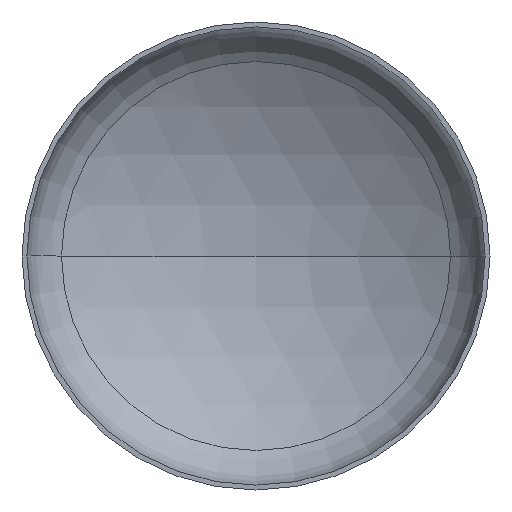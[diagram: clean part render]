
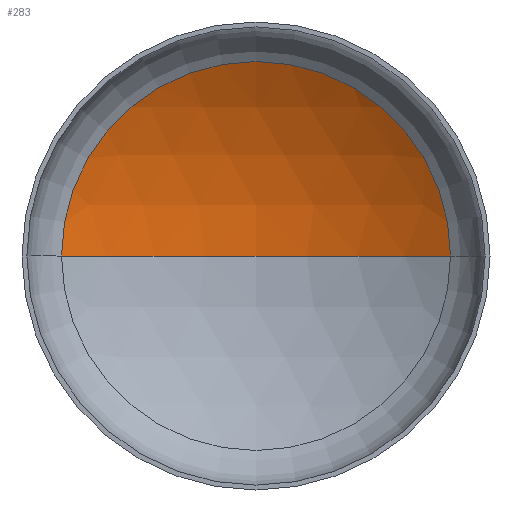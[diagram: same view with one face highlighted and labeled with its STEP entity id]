
A CAD part, front view. The second image highlights one B-rep face of the part: STEP entity #283.
In plain terms, the highlighted spherical face has radius 4000 mm.
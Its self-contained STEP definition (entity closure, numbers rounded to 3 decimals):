
#16 = CARTESIAN_POINT ( 'NONE',  ( 0., -2639.93, 0. ) ) ;
#18 = CARTESIAN_POINT ( 'NONE',  ( 2078.019, 777.94, 0. ) ) ;
#25 = DIRECTION ( 'NONE',  ( -1., 0., 0. ) ) ;
#39 = AXIS2_PLACEMENT_3D ( 'NONE', #348, #131, #75 ) ;
#42 = AXIS2_PLACEMENT_3D ( 'NONE', #388, #138, #67 ) ;
#44 = AXIS2_PLACEMENT_3D ( 'NONE', #16, #46, #25 ) ;
#46 = DIRECTION ( 'NONE',  ( 0., 0., -1. ) ) ;
#48 = EDGE_LOOP ( 'NONE', ( #365, #247, #239 ) ) ;
#50 = AXIS2_PLACEMENT_3D ( 'NONE', #223, #143, #142 ) ;
#67 = DIRECTION ( 'NONE',  ( 1., 0., 0. ) ) ;
#75 = DIRECTION ( 'NONE',  ( -1., 0., 0. ) ) ;
#79 = VERTEX_POINT ( 'NONE', #209 ) ;
#116 = VERTEX_POINT ( 'NONE', #164 ) ;
#131 = DIRECTION ( 'NONE',  ( 0., 0., -1. ) ) ;
#138 = DIRECTION ( 'NONE',  ( 0., 0., 1. ) ) ;
#142 = DIRECTION ( 'NONE',  ( 1., 0., 0. ) ) ;
#143 = DIRECTION ( 'NONE',  ( 0., -1., 0. ) ) ;
#162 = CIRCLE ( 'NONE', #44, 4000. ) ;
#164 = CARTESIAN_POINT ( 'NONE',  ( -2078.019, 777.94, 0. ) ) ;
#176 = EDGE_CURVE ( 'NONE', #231, #116, #310, .T. ) ;
#201 = EDGE_CURVE ( 'NONE', #79, #231, #162, .T. ) ;
#209 = CARTESIAN_POINT ( 'NONE',  ( 0., 1360.07, 0. ) ) ;
#217 = EDGE_CURVE ( 'NONE', #79, #116, #374, .T. ) ;
#223 = CARTESIAN_POINT ( 'NONE',  ( 0., 777.94, 0. ) ) ;
#231 = VERTEX_POINT ( 'NONE', #18 ) ;
#237 = FACE_OUTER_BOUND ( 'NONE', #48, .T. ) ;
#239 = ORIENTED_EDGE ( 'NONE', *, *, #176, .T. ) ;
#247 = ORIENTED_EDGE ( 'NONE', *, *, #201, .T. ) ;
#283 = ADVANCED_FACE ( 'NONE', ( #237 ), #291, .F. ) ;
#291 = SPHERICAL_SURFACE ( 'NONE', #39, 4000. ) ;
#310 = CIRCLE ( 'NONE', #50, 2078.019 ) ;
#348 = CARTESIAN_POINT ( 'NONE',  ( 0., -2639.93, 0. ) ) ;
#365 = ORIENTED_EDGE ( 'NONE', *, *, #217, .F. ) ;
#374 = CIRCLE ( 'NONE', #42, 4000. ) ;
#388 = CARTESIAN_POINT ( 'NONE',  ( 0., -2639.93, 0. ) ) ;
